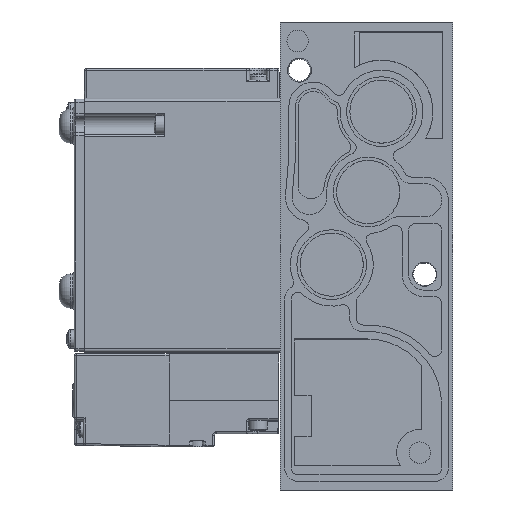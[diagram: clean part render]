
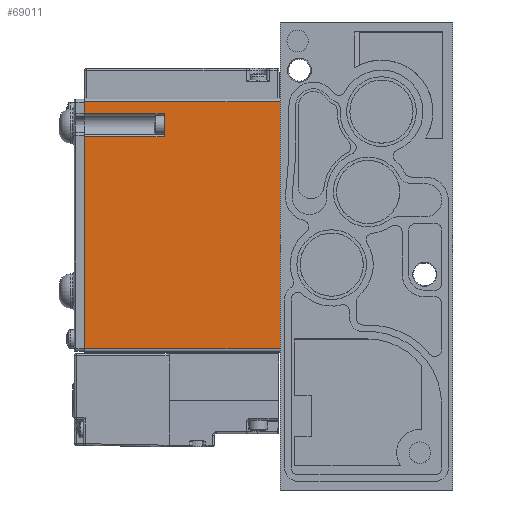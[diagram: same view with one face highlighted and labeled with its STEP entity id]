
A CAD part, left-side view. The second image highlights one B-rep face of the part: STEP entity #69011.
In plain terms, the highlighted planar face has unit normal (-1, 0, 0).
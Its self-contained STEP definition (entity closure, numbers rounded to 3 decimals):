
#501 = LINE ( 'NONE', #1795, #78327 ) ;
#1240 = CARTESIAN_POINT ( 'NONE',  ( -12., 0., -37.25 ) ) ;
#1525 = LINE ( 'NONE', #49597, #59306 ) ;
#1795 = CARTESIAN_POINT ( 'NONE',  ( -12., 35., 26.75 ) ) ;
#7480 = DIRECTION ( 'NONE',  ( 0., 0., 1. ) ) ;
#9279 = VECTOR ( 'NONE', #42939, 1000. ) ;
#11051 = CARTESIAN_POINT ( 'NONE',  ( -12., 35., 33.75 ) ) ;
#11655 = VERTEX_POINT ( 'NONE', #96599 ) ;
#12214 = ORIENTED_EDGE ( 'NONE', *, *, #76095, .T. ) ;
#12870 = ORIENTED_EDGE ( 'NONE', *, *, #73042, .T. ) ;
#14572 = EDGE_CURVE ( 'NONE', #78702, #63119, #1525, .T. ) ;
#18474 = ORIENTED_EDGE ( 'NONE', *, *, #26584, .F. ) ;
#19047 = VECTOR ( 'NONE', #46436, 1000. ) ;
#19383 = DIRECTION ( 'NONE',  ( -1., 0., 0. ) ) ;
#21415 = LINE ( 'NONE', #1240, #19047 ) ;
#25214 = DIRECTION ( 'NONE',  ( 0., 1., 0. ) ) ;
#26524 = LINE ( 'NONE', #45120, #68945 ) ;
#26584 = EDGE_CURVE ( 'NONE', #67488, #11655, #501, .T. ) ;
#28015 = LINE ( 'NONE', #38876, #85725 ) ;
#28385 = CARTESIAN_POINT ( 'NONE',  ( -12., 59., -37.25 ) ) ;
#28621 = VECTOR ( 'NONE', #25214, 1000. ) ;
#31724 = LINE ( 'NONE', #35363, #9279 ) ;
#32258 = CARTESIAN_POINT ( 'NONE',  ( -12., 35., 26.75 ) ) ;
#34664 = VERTEX_POINT ( 'NONE', #78822 ) ;
#34951 = CARTESIAN_POINT ( 'NONE',  ( -12., 59., 37.25 ) ) ;
#35363 = CARTESIAN_POINT ( 'NONE',  ( -12., 35., 26.75 ) ) ;
#37406 = ORIENTED_EDGE ( 'NONE', *, *, #74076, .F. ) ;
#38876 = CARTESIAN_POINT ( 'NONE',  ( -12., 59., 38.25 ) ) ;
#39002 = CARTESIAN_POINT ( 'NONE',  ( -12., 0., 37.25 ) ) ;
#39716 = DIRECTION ( 'NONE',  ( 0., 0., 1. ) ) ;
#42787 = EDGE_CURVE ( 'NONE', #11655, #54613, #86339, .T. ) ;
#42939 = DIRECTION ( 'NONE',  ( 0., 1., 0. ) ) ;
#44648 = EDGE_CURVE ( 'NONE', #49871, #34664, #28015, .T. ) ;
#44911 = ORIENTED_EDGE ( 'NONE', *, *, #14572, .F. ) ;
#45120 = CARTESIAN_POINT ( 'NONE',  ( -12., 59., 38.25 ) ) ;
#46436 = DIRECTION ( 'NONE',  ( 0., -1., 0. ) ) ;
#48592 = VECTOR ( 'NONE', #95540, 1000. ) ;
#49597 = CARTESIAN_POINT ( 'NONE',  ( -12., 0., 38.25 ) ) ;
#49871 = VERTEX_POINT ( 'NONE', #28385 ) ;
#49946 = DIRECTION ( 'NONE',  ( 0., 0., -1. ) ) ;
#52593 = CARTESIAN_POINT ( 'NONE',  ( -12., 59., 33.75 ) ) ;
#53045 = CARTESIAN_POINT ( 'NONE',  ( -12., 0., -37.25 ) ) ;
#54613 = VERTEX_POINT ( 'NONE', #52593 ) ;
#59306 = VECTOR ( 'NONE', #49946, 1000. ) ;
#62521 = FACE_OUTER_BOUND ( 'NONE', #77170, .T. ) ;
#62875 = CARTESIAN_POINT ( 'NONE',  ( -12., 59., 37.25 ) ) ;
#63119 = VERTEX_POINT ( 'NONE', #53045 ) ;
#64507 = CARTESIAN_POINT ( 'NONE',  ( -12., 59., 38.25 ) ) ;
#65222 = ORIENTED_EDGE ( 'NONE', *, *, #65813, .T. ) ;
#65813 = EDGE_CURVE ( 'NONE', #49871, #63119, #21415, .T. ) ;
#66211 = ORIENTED_EDGE ( 'NONE', *, *, #42787, .F. ) ;
#67488 = VERTEX_POINT ( 'NONE', #32258 ) ;
#68945 = VECTOR ( 'NONE', #7480, 1000. ) ;
#69011 = ADVANCED_FACE ( 'NONE', ( #62521 ), #86579, .T. ) ;
#72067 = DIRECTION ( 'NONE',  ( 0., 0., 1. ) ) ;
#73042 = EDGE_CURVE ( 'NONE', #67488, #34664, #31724, .T. ) ;
#73383 = ORIENTED_EDGE ( 'NONE', *, *, #44648, .F. ) ;
#74076 = EDGE_CURVE ( 'NONE', #54613, #76522, #26524, .T. ) ;
#76095 = EDGE_CURVE ( 'NONE', #78702, #76522, #88626, .T. ) ;
#76522 = VERTEX_POINT ( 'NONE', #62875 ) ;
#77170 = EDGE_LOOP ( 'NONE', ( #73383, #65222, #44911, #12214, #37406, #66211, #18474, #12870 ) ) ;
#78327 = VECTOR ( 'NONE', #39716, 1000. ) ;
#78702 = VERTEX_POINT ( 'NONE', #39002 ) ;
#78822 = CARTESIAN_POINT ( 'NONE',  ( -12., 59., 26.75 ) ) ;
#84223 = AXIS2_PLACEMENT_3D ( 'NONE', #64507, #19383, #72067 ) ;
#85725 = VECTOR ( 'NONE', #91514, 1000. ) ;
#86339 = LINE ( 'NONE', #11051, #28621 ) ;
#86579 = PLANE ( 'NONE',  #84223 ) ;
#88626 = LINE ( 'NONE', #34951, #48592 ) ;
#91514 = DIRECTION ( 'NONE',  ( 0., 0., 1. ) ) ;
#95540 = DIRECTION ( 'NONE',  ( 0., 1., 0. ) ) ;
#96599 = CARTESIAN_POINT ( 'NONE',  ( -12., 35., 33.75 ) ) ;
